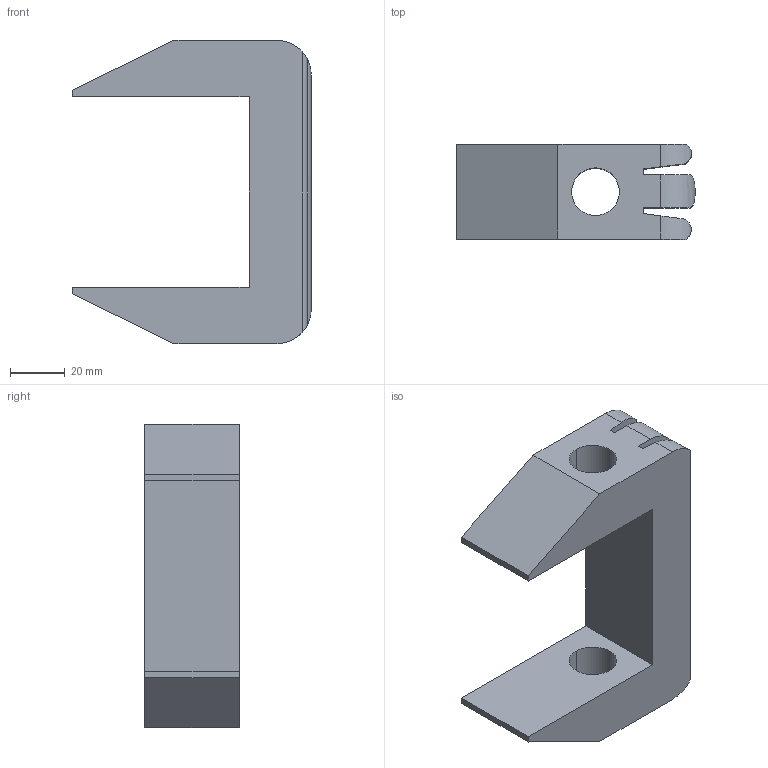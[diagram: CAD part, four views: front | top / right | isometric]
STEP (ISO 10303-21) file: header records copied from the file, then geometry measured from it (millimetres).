
FILE_DESCRIPTION(('TurboCAD Mac Pro'),'Build 980');
FILE_NAME('PLFD9062.stp',' ',(''),(''),'ACIS Interop','IMSI','TurboCAD Mac Pro BY IMSI, INCORPORATED');
FILE_SCHEMA(('automotive_design'));
Length unit declared in the file: inch
Products named in the file (1): 1
Bounding box: 87.31 x 34.69 x 111.12 mm (x, y, z)
Volume: 127828.3 mm3; surface area: 33398.7 mm2
Topology: 1 solids, 1 shells, 37 faces, 105 edges, 70 vertices
Faces by surface type: bspline 20, plane 17
Entity records: 1736 total; most frequent: CARTESIAN_POINT 584, ORIENTED_EDGE 210, EDGE_CURVE 105, DIRECTION 100, VERTEX_POINT 70, LINE 64, VECTOR 64, EDGE_LOOP 41
